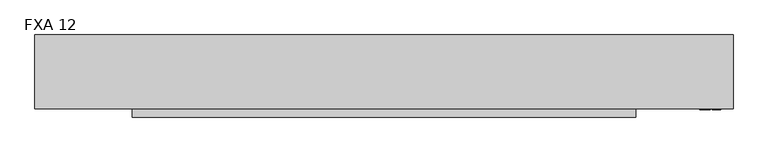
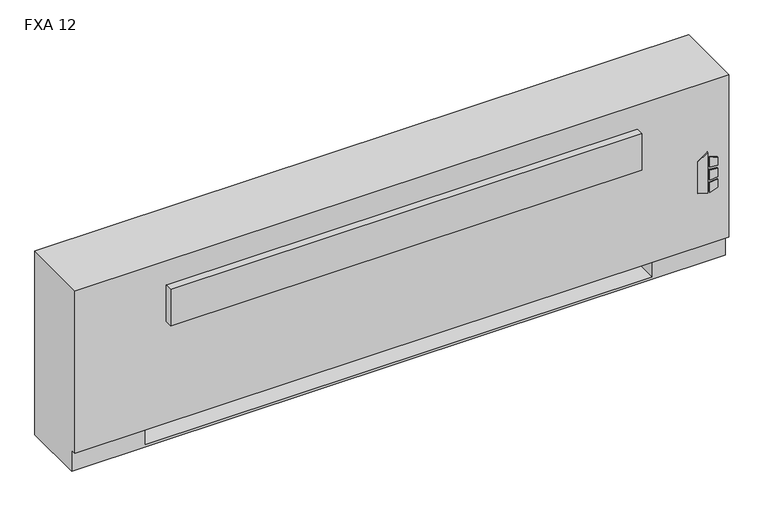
"""IFC4 building model written with IfcOpenShell, lengths in millimetres: proxy geometry, Vertical_Fan_Coil_Unit_-_FXA_-_IEC_-_4-Pipe_FS-FR_LH_2022 : FXA 12."""

from ifc_helpers import new_model, si_unit, point, frame, frame_2d, origin, place, context, project, spatial, polyline, circle_curve, trimmed, segment, composite_curve, outline, extrude, source, transform, mapped, element, save
from ifc_brep_helpers import plane_surface, revolved_surface, advanced_brep


def fxa_12_96722633(model_context):
    return source(origin(), model_context, "Body", "SolidModel", [
        extrude(outline(polyline([(263.9480703, 1128.7868862), (254.0, 1160.9602728), (396.1709244, 1160.9602728), (373.1489183, 1128.7868862), (263.9480703, 1128.7868862)])), frame((0.0, 12.7, 0.0), z_axis=(0.0, 1.0, 0.0), x_axis=(0.0, 0.0, 1.0)), (0.0, 0.0, 1.0), 3.175),
        extrude(outline(polyline([(342.9473557, 1167.7186058), (339.7449632, 1193.8), (368.9738042, 1193.8), (377.0382193, 1167.7186058), (342.9473557, 1167.7186058)])), frame((0.0, 12.7, 0.0), z_axis=(0.0, 1.0, 0.0), x_axis=(0.0, 0.0, 1.0)), (0.0, 0.0, 1.0), 3.175),
        extrude(outline(polyline([(291.0838288, 1193.8), (287.4183279, 1167.7186058), (254.0, 1167.7186058), (262.6342372, 1193.8), (291.0838288, 1193.8)])), frame((0.0, 12.7, 0.0), z_axis=(0.0, 1.0, 0.0), x_axis=(0.0, 0.0, 1.0)), (0.0, 0.0, 1.0), 3.175),
        extrude(outline(polyline([(330.3989903, 1193.8), (332.6808166, 1167.7186058), (296.7432681, 1167.7186058), (299.4845331, 1193.8), (330.3989903, 1193.8)])), frame((0.0, 12.7, 0.0), z_axis=(0.0, 1.0, 0.0), x_axis=(0.0, 0.0, 1.0)), (0.0, 0.0, 1.0), 3.175),
        extrude(outline(polyline([(1111.25, 223.266), (1111.25, 81.534), (990.6, 81.534), (990.6, 223.266), (1111.25, 223.266)])), frame((0.0, 0.0, 327.025), z_axis=(0.0, 0.0, 1.0), x_axis=(1.0, 0.0, 0.0)), (0.0, 0.0, 1.0), 260.35),
        extrude(outline(composite_curve([segment(trimmed(circle_curve(frame_2d((-749.3, 130.175)), 9.525), [point((-758.825, 130.175))], [point((-739.775, 130.175))], False, "CARTESIAN"), True, "CONTINUOUS"), segment(trimmed(circle_curve(frame_2d((-749.3, 130.175)), 9.525), [point((-739.775, 130.175))], [point((-758.825, 130.175))], False, "CARTESIAN"), True, "CONTINUOUS")], self_intersect=False)), frame((0.0, 0.0, 101.6), z_axis=(0.0, 0.0, 1.0), x_axis=(1.0, 0.0, 0.0)), (0.0, 0.0, 1.0), 25.4),
        extrude(outline(polyline([(-850.9, 63.5), (-850.9, 196.85), (-685.8, 196.85), (-685.8, 63.5), (-850.9, 63.5)])), frame((0.0, 0.0, 127.0), z_axis=(0.0, 0.0, 1.0), x_axis=(1.0, 0.0, 0.0)), (0.0, 0.0, 1.0), 50.8),
        extrude(outline(polyline([(930.275, -9.525), (-625.475, -9.525), (-625.475, 15.875), (930.275, 15.875), (930.275, -9.525)])), frame((0.0, 0.0, 428.625), z_axis=(0.0, 0.0, 1.0), x_axis=(1.0, 0.0, 0.0)), (0.0, 0.0, 1.0), 127.0),
        extrude(outline(composite_curve([segment(trimmed(circle_curve(frame_2d((109.0168, 457.2)), 7.9375), [point((109.0168, 465.1375))], [point((109.0168, 449.2625))], False, "CARTESIAN"), True, "CONTINUOUS"), segment(trimmed(circle_curve(frame_2d((109.0168, 457.2)), 7.9375), [point((109.0168, 449.2625))], [point((109.0168, 465.1375))], False, "CARTESIAN"), True, "CONTINUOUS")], self_intersect=False)), frame((-736.6, 0.0, 0.0), z_axis=(1.0, 0.0, 0.0), x_axis=(0.0, 1.0, 0.0)), (0.0, 0.0, 1.0), 50.8),
        extrude(outline(composite_curve([segment(trimmed(circle_curve(frame_2d((172.085, 460.0194)), 7.9375), [point((172.085, 467.9569))], [point((172.085, 452.0819))], False, "CARTESIAN"), True, "CONTINUOUS"), segment(trimmed(circle_curve(frame_2d((172.085, 460.0194)), 7.9375), [point((172.085, 452.0819))], [point((172.085, 467.9569))], False, "CARTESIAN"), True, "CONTINUOUS")], self_intersect=False)), frame((-736.6, 0.0, 0.0), z_axis=(1.0, 0.0, 0.0), x_axis=(0.0, 1.0, 0.0)), (0.0, 0.0, 1.0), 50.8),
        extrude(outline(composite_curve([segment(trimmed(circle_curve(frame_2d((130.175, 554.99)), 7.9502), [point((130.175, 562.9402))], [point((130.175, 547.0398))], False, "CARTESIAN"), True, "CONTINUOUS"), segment(trimmed(circle_curve(frame_2d((130.175, 554.99)), 7.9502), [point((130.175, 547.0398))], [point((130.175, 562.9402))], False, "CARTESIAN"), True, "CONTINUOUS")], self_intersect=False)), frame((-736.6, 0.0, 0.0), z_axis=(1.0, 0.0, 0.0), x_axis=(0.0, 1.0, 0.0)), (0.0, 0.0, 1.0), 50.8),
        extrude(outline(composite_curve([segment(trimmed(circle_curve(frame_2d((53.975, 416.56)), 7.9502), [point((53.975, 424.5102))], [point((53.975, 408.6098))], False, "CARTESIAN"), True, "CONTINUOUS"), segment(trimmed(circle_curve(frame_2d((53.975, 416.56)), 7.9502), [point((53.975, 408.6098))], [point((53.975, 424.5102))], False, "CARTESIAN"), True, "CONTINUOUS")], self_intersect=False)), frame((-736.6, 0.0, 0.0), z_axis=(1.0, 0.0, 0.0), x_axis=(0.0, 1.0, 0.0)), (0.0, 0.0, 1.0), 50.8),
        advanced_brep(
        [(1231.9, 244.475, 641.35), (-927.1, 244.475, 641.35), (-927.1, 15.875, 641.35), (1231.9, 15.875, 641.35), (-927.1, 244.475, 0.0), (1231.9, 244.475, 0.0), (1231.9, 34.925, 0.0), (-927.1, 34.925, 0.0), (990.6, 244.475, 73.025), (1219.2, 244.475, 73.025), (1219.2, 244.475, 628.65), (990.6, 244.475, 628.65), (990.6, 244.475, 414.8650565), (1019.175, 244.475, 414.8650565), (1019.175, 244.475, 385.2349435), (990.6, 244.475, 385.2349435), (990.6, 244.475, 287.3375), (1019.175, 244.475, 287.3375), (1019.175, 244.475, 258.7625), (990.6, 244.475, 258.7625), (990.6, 244.475, 141.2875), (1019.175, 244.475, 141.2875), (1019.175, 244.475, 112.7125), (990.6, 244.475, 112.7125), (-685.8, 244.475, 628.65), (-914.4, 244.475, 628.65), (-914.4, 244.475, 73.025), (-685.8, 244.475, 73.025), (-685.8, 244.475, 112.7125), (-714.375, 244.475, 112.7125), (-714.375, 244.475, 141.2875), (-685.8, 244.475, 141.2875), (-685.8, 244.475, 258.7625), (-714.375, 244.475, 258.7625), (-714.375, 244.475, 287.3375), (-685.8, 244.475, 287.3375), (-685.8, 244.475, 385.2349435), (-714.375, 244.475, 385.2349435), (-714.375, 244.475, 414.8650565), (-685.8, 244.475, 414.8650565), (1008.8626, 244.475, 127.0), (997.7374, 244.475, 127.0), (1008.8626, 244.475, 400.05), (997.7374, 244.475, 400.05), (1008.8626, 244.475, 273.05), (997.7374, 244.475, 273.05), (-692.9374, 244.475, 127.0), (-704.0626, 244.475, 127.0), (-692.9374, 244.475, 273.05), (-704.0626, 244.475, 273.05), (-692.9374, 244.475, 400.05), (-704.0626, 244.475, 400.05), (-927.1, 34.925, 73.025), (-927.1, 15.875, 73.025), (1231.9, 15.875, 73.025), (1231.9, 34.925, 73.025), (-685.8, 34.925, 73.025), (-685.8, 219.075, 73.025), (990.6, 219.075, 73.025), (990.6, 34.925, 73.025), (990.6, 34.925, 6.35), (-685.8, 34.925, 6.35), (990.6, 41.275, 628.65), (1219.2, 41.275, 628.65), (1219.2, 41.275, 73.025), (990.6, 41.275, 73.025), (-685.8, 41.275, 628.65), (-685.8, 41.275, 73.025), (-914.4, 41.275, 73.025), (-914.4, 41.275, 628.65), (990.6, 219.075, 73.025), (990.6, 238.125, 112.7125), (990.6, 238.125, 141.2875), (990.6, 238.125, 258.7625), (990.6, 238.125, 287.3375), (990.6, 238.125, 385.2349435), (990.6, 238.125, 414.8650565), (-685.8, 219.075, 73.025), (-685.8, 238.125, 414.8650565), (-685.8, 238.125, 385.2349435), (-685.8, 238.125, 287.3375), (-685.8, 238.125, 258.7625), (-685.8, 238.125, 141.2875), (-685.8, 238.125, 112.7125), (-685.8, 219.075, 6.35), (990.6, 219.075, 6.35), (1019.175, 238.125, 112.7125), (1019.175, 238.125, 141.2875), (997.7374, 238.125, 127.0), (1008.8626, 238.125, 127.0), (1019.175, 238.125, 258.7625), (1019.175, 238.125, 287.3375), (997.7374, 238.125, 273.05), (1008.8626, 238.125, 273.05), (1019.175, 238.125, 385.2349435), (1019.175, 238.125, 414.8650565), (997.7374, 238.125, 400.05), (1008.8626, 238.125, 400.05), (-714.375, 238.125, 141.2875), (-714.375, 238.125, 112.7125), (-704.0626, 238.125, 127.0), (-692.9374, 238.125, 127.0), (-714.375, 238.125, 287.3375), (-714.375, 238.125, 258.7625), (-704.0626, 238.125, 273.05), (-692.9374, 238.125, 273.05), (-714.375, 238.125, 414.8650565), (-714.375, 238.125, 385.2349435), (-704.0626, 238.125, 400.05), (-692.9374, 238.125, 400.05)],
        [
            (0, 1),
            (1, 2),
            (2, 3),
            (3, 0),
            (4, 5),
            (5, 6),
            (6, 7),
            (7, 4),
            (0, 5),
            (4, 1),
            (8, 9),
            (9, 10),
            (10, 11),
            (11, 12),
            (12, 13),
            (13, 14),
            (14, 15),
            (15, 16),
            (16, 17),
            (17, 18),
            (18, 19),
            (19, 20),
            (20, 21),
            (21, 22),
            (22, 23),
            (23, 8),
            (24, 25),
            (25, 26),
            (26, 27),
            (27, 28),
            (28, 29),
            (29, 30),
            (30, 31),
            (31, 32),
            (32, 33),
            (33, 34),
            (34, 35),
            (35, 36),
            (36, 37),
            (37, 38),
            (38, 39),
            (39, 24),
            (40, 41, circle_curve(frame((1003.3, 244.475, 127.0), z_axis=(0.0, -1.0, 0.0), x_axis=(-1.0, 0.0, 0.0)), 5.5626)),
            (41, 40, circle_curve(frame((1003.3, 244.475, 127.0), z_axis=(0.0, -1.0, 0.0), x_axis=(-1.0, 0.0, 0.0)), 5.5626)),
            (42, 43, circle_curve(frame((1003.3, 244.475, 400.05), z_axis=(0.0, -1.0, 0.0), x_axis=(-1.0, 0.0, 0.0)), 5.5626)),
            (43, 42, circle_curve(frame((1003.3, 244.475, 400.05), z_axis=(0.0, -1.0, 0.0), x_axis=(-1.0, 0.0, 0.0)), 5.5626)),
            (44, 45, circle_curve(frame((1003.3, 244.475, 273.05), z_axis=(0.0, -1.0, 0.0), x_axis=(-1.0, 0.0, 0.0)), 5.5626)),
            (45, 44, circle_curve(frame((1003.3, 244.475, 273.05), z_axis=(0.0, -1.0, 0.0), x_axis=(-1.0, 0.0, 0.0)), 5.5626)),
            (46, 47, circle_curve(frame((-698.5, 244.475, 127.0), z_axis=(0.0, -1.0, 0.0), x_axis=(-1.0, 0.0, 0.0)), 5.5626)),
            (47, 46, circle_curve(frame((-698.5, 244.475, 127.0), z_axis=(0.0, -1.0, 0.0), x_axis=(-1.0, 0.0, 0.0)), 5.5626)),
            (48, 49, circle_curve(frame((-698.5, 244.475, 273.05), z_axis=(0.0, -1.0, 0.0), x_axis=(-1.0, 0.0, 0.0)), 5.5626)),
            (49, 48, circle_curve(frame((-698.5, 244.475, 273.05), z_axis=(0.0, -1.0, 0.0), x_axis=(-1.0, 0.0, 0.0)), 5.5626)),
            (50, 51, circle_curve(frame((-698.5, 244.475, 400.05), z_axis=(0.0, -1.0, 0.0), x_axis=(-1.0, 0.0, 0.0)), 5.5626)),
            (51, 50, circle_curve(frame((-698.5, 244.475, 400.05), z_axis=(0.0, -1.0, 0.0), x_axis=(-1.0, 0.0, 0.0)), 5.5626)),
            (7, 52),
            (52, 53),
            (53, 2),
            (53, 54),
            (54, 3),
            (54, 55),
            (55, 6),
            (52, 56),
            (56, 57),
            (57, 58),
            (58, 59),
            (59, 55),
            (59, 60),
            (60, 61),
            (61, 56),
            (62, 63),
            (63, 64),
            (64, 65),
            (65, 62),
            (66, 67),
            (67, 68),
            (68, 69),
            (69, 66),
            (65, 70),
            (70, 8),
            (23, 71),
            (71, 72),
            (72, 20),
            (19, 73),
            (73, 74),
            (74, 16),
            (15, 75),
            (75, 76),
            (76, 12),
            (11, 62),
            (64, 9),
            (63, 10),
            (69, 25),
            (24, 66),
            (68, 26),
            (67, 77),
            (77, 27),
            (39, 78),
            (78, 79),
            (79, 36),
            (35, 80),
            (80, 81),
            (81, 32),
            (31, 82),
            (82, 83),
            (83, 28),
            (57, 84),
            (84, 85),
            (85, 58),
            (85, 60),
            (84, 61),
            (71, 86),
            (86, 87),
            (87, 72),
            (88, 89, circle_curve(frame((1003.3, 238.125, 127.0), z_axis=(0.0, 1.0, 0.0), x_axis=(-1.0, 0.0, 0.0)), 5.5626)),
            (89, 88, circle_curve(frame((1003.3, 238.125, 127.0), z_axis=(0.0, 1.0, 0.0), x_axis=(-1.0, 0.0, 0.0)), 5.5626)),
            (73, 90),
            (90, 91),
            (91, 74),
            (92, 93, circle_curve(frame((1003.3, 238.125, 273.05), z_axis=(0.0, 1.0, 0.0), x_axis=(-1.0, 0.0, 0.0)), 5.5626)),
            (93, 92, circle_curve(frame((1003.3, 238.125, 273.05), z_axis=(0.0, 1.0, 0.0), x_axis=(-1.0, 0.0, 0.0)), 5.5626)),
            (75, 94),
            (94, 95),
            (95, 76),
            (96, 97, circle_curve(frame((1003.3, 238.125, 400.05), z_axis=(0.0, 1.0, 0.0), x_axis=(-1.0, 0.0, 0.0)), 5.5626)),
            (97, 96, circle_curve(frame((1003.3, 238.125, 400.05), z_axis=(0.0, 1.0, 0.0), x_axis=(-1.0, 0.0, 0.0)), 5.5626)),
            (98, 99),
            (99, 83),
            (82, 98),
            (100, 101, circle_curve(frame((-698.5, 238.125, 127.0), z_axis=(0.0, 1.0, 0.0), x_axis=(-1.0, 0.0, 0.0)), 5.5626)),
            (101, 100, circle_curve(frame((-698.5, 238.125, 127.0), z_axis=(0.0, 1.0, 0.0), x_axis=(-1.0, 0.0, 0.0)), 5.5626)),
            (102, 103),
            (103, 81),
            (80, 102),
            (104, 105, circle_curve(frame((-698.5, 238.125, 273.05), z_axis=(0.0, 1.0, 0.0), x_axis=(-1.0, 0.0, 0.0)), 5.5626)),
            (105, 104, circle_curve(frame((-698.5, 238.125, 273.05), z_axis=(0.0, 1.0, 0.0), x_axis=(-1.0, 0.0, 0.0)), 5.5626)),
            (106, 107),
            (107, 79),
            (78, 106),
            (108, 109, circle_curve(frame((-698.5, 238.125, 400.05), z_axis=(0.0, 1.0, 0.0), x_axis=(-1.0, 0.0, 0.0)), 5.5626)),
            (109, 108, circle_curve(frame((-698.5, 238.125, 400.05), z_axis=(0.0, 1.0, 0.0), x_axis=(-1.0, 0.0, 0.0)), 5.5626)),
            (87, 21),
            (86, 22),
            (91, 17),
            (90, 18),
            (95, 13),
            (94, 14),
            (30, 98),
            (99, 29),
            (34, 102),
            (103, 33),
            (38, 106),
            (107, 37),
            (88, 41),
            (40, 89),
            (96, 43),
            (42, 97),
            (92, 45),
            (44, 93),
            (100, 47),
            (46, 101),
            (104, 49),
            (48, 105),
            (108, 51),
            (50, 109),
        ],
        [
            plane_surface(frame((-927.1, 244.475, 641.35), z_axis=(0.0, 0.0, 1.0), x_axis=(-1.0, 0.0, 0.0))),
            plane_surface(frame((-927.1, 244.475, 0.0), z_axis=(0.0, 0.0, -1.0), x_axis=(1.0, 0.0, 0.0))),
            plane_surface(frame((1231.9, 244.475, 641.35), z_axis=(0.0, 1.0, 0.0), x_axis=(0.0, 0.0, -1.0))),
            plane_surface(frame((-927.1, 244.475, 641.35), z_axis=(-1.0, 0.0, 0.0), x_axis=(0.0, 0.0, -1.0))),
            plane_surface(frame((-927.1, 15.875, 641.35), z_axis=(0.0, -1.0, 0.0), x_axis=(0.0, 0.0, -1.0))),
            plane_surface(frame((1231.9, 15.875, 641.35), z_axis=(1.0, 0.0, 0.0), x_axis=(0.0, 0.0, -1.0))),
            plane_surface(frame((-927.1, 15.875, 73.025), z_axis=(0.0, 0.0, -1.0), x_axis=(1.0, 0.0, 0.0))),
            plane_surface(frame((-927.1, 34.925, 73.025), z_axis=(0.0, -1.0, 0.0), x_axis=(1.0, 0.0, 0.0))),
            plane_surface(frame((990.6, 41.275, 628.65), z_axis=(0.0, 1.0, 0.0), x_axis=(0.0, 0.0, -1.0))),
            plane_surface(frame((990.6, 41.275, 628.65), z_axis=(1.0, 0.0, 0.0), x_axis=(0.0, 1.0, 0.0))),
            plane_surface(frame((990.6, 41.275, 73.025), z_axis=(0.0, 0.0, 1.0), x_axis=(0.0, 1.0, 0.0))),
            plane_surface(frame((1219.2, 41.275, 73.025), z_axis=(-1.0, 0.0, 0.0), x_axis=(0.0, 1.0, 0.0))),
            plane_surface(frame((1219.2, 41.275, 628.65), z_axis=(0.0, 0.0, -1.0), x_axis=(0.0, 1.0, 0.0))),
            plane_surface(frame((-685.8, 41.275, 628.65), z_axis=(0.0, 0.0, -1.0), x_axis=(0.0, 1.0, 0.0))),
            plane_surface(frame((-914.4, 41.275, 628.65), z_axis=(1.0, 0.0, 0.0), x_axis=(0.0, 1.0, 0.0))),
            plane_surface(frame((-914.4, 41.275, 73.025), z_axis=(0.0, 0.0, 1.0), x_axis=(0.0, 1.0, 0.0))),
            plane_surface(frame((-685.8, 41.275, 73.025), z_axis=(-1.0, 0.0, 0.0), x_axis=(0.0, 1.0, 0.0))),
            plane_surface(frame((990.6, 219.075, 73.025), z_axis=(0.0, -1.0, 0.0), x_axis=(0.0, 0.0, -1.0))),
            plane_surface(frame((990.6, 219.075, 73.025), z_axis=(-1.0, 0.0, 0.0), x_axis=(0.0, -1.0, 0.0))),
            plane_surface(frame((990.6, 219.075, 6.35), z_axis=(0.0, 0.0, 1.0), x_axis=(0.0, -1.0, 0.0))),
            plane_surface(frame((-685.8, 219.075, 6.35), z_axis=(1.0, 0.0, 0.0), x_axis=(0.0, -1.0, 0.0))),
            plane_surface(frame((1019.175, 238.125, 141.2875), z_axis=(0.0, -1.0, 0.0), x_axis=(-1.0, 0.0, 0.0))),
            plane_surface(frame((990.6, 244.475, 141.2875), z_axis=(0.0, 0.0, 1.0), x_axis=(0.0, -1.0, 0.0))),
            plane_surface(frame((1019.175, 244.475, 141.2875), z_axis=(1.0, 0.0, 0.0), x_axis=(0.0, -1.0, 0.0))),
            plane_surface(frame((1019.175, 244.475, 112.7125), z_axis=(0.0, 0.0, -1.0), x_axis=(0.0, -1.0, 0.0))),
            plane_surface(frame((990.6, 244.475, 287.3375), z_axis=(0.0, 0.0, 1.0), x_axis=(0.0, -1.0, 0.0))),
            plane_surface(frame((1019.175, 244.475, 287.3375), z_axis=(1.0, 0.0, 0.0), x_axis=(0.0, -1.0, 0.0))),
            plane_surface(frame((1019.175, 244.475, 258.7625), z_axis=(0.0, 0.0, -1.0), x_axis=(0.0, -1.0, 0.0))),
            plane_surface(frame((990.6, 244.475, 414.8650565), z_axis=(0.0, 0.0, 1.0), x_axis=(0.0, -1.0, 0.0))),
            plane_surface(frame((1019.175, 244.475, 414.8650565), z_axis=(1.0, 0.0, 0.0), x_axis=(0.0, -1.0, 0.0))),
            plane_surface(frame((1019.175, 244.475, 385.2349435), z_axis=(0.0, 0.0, -1.0), x_axis=(0.0, -1.0, 0.0))),
            plane_surface(frame((-714.375, 244.475, 141.2875), z_axis=(0.0, 0.0, 1.0), x_axis=(0.0, -1.0, 0.0))),
            plane_surface(frame((-685.8, 244.475, 112.7125), z_axis=(0.0, 0.0, -1.0), x_axis=(0.0, -1.0, 0.0))),
            plane_surface(frame((-714.375, 244.475, 112.7125), z_axis=(-1.0, 0.0, 0.0), x_axis=(0.0, -1.0, 0.0))),
            plane_surface(frame((-714.375, 244.475, 287.3375), z_axis=(0.0, 0.0, 1.0), x_axis=(0.0, -1.0, 0.0))),
            plane_surface(frame((-685.8, 244.475, 258.7625), z_axis=(0.0, 0.0, -1.0), x_axis=(0.0, -1.0, 0.0))),
            plane_surface(frame((-714.375, 244.475, 258.7625), z_axis=(-1.0, 0.0, 0.0), x_axis=(0.0, -1.0, 0.0))),
            plane_surface(frame((-714.375, 244.475, 414.8650565), z_axis=(0.0, 0.0, 1.0), x_axis=(0.0, -1.0, 0.0))),
            plane_surface(frame((-685.8, 244.475, 385.2349435), z_axis=(0.0, 0.0, -1.0), x_axis=(0.0, -1.0, 0.0))),
            plane_surface(frame((-714.375, 244.475, 385.2349435), z_axis=(-1.0, 0.0, 0.0), x_axis=(0.0, -1.0, 0.0))),
            revolved_surface(polyline([(997.7374, 238.125, 127.0), (997.7374, 244.475, 127.0)]), (1003.3, 244.475, 127.0), (0.0, -1.0, 0.0)),
            revolved_surface(polyline([(997.7374, 238.125, 400.05), (997.7374, 244.475, 400.05)]), (1003.3, 244.475, 400.05), (0.0, -1.0, 0.0)),
            revolved_surface(polyline([(997.7374, 238.125, 273.05), (997.7374, 244.475, 273.05)]), (1003.3, 244.475, 273.05), (0.0, -1.0, 0.0)),
            revolved_surface(polyline([(-704.0626, 238.125, 127.0), (-704.0626, 244.475, 127.0)]), (-698.5, 244.475, 127.0), (0.0, -1.0, 0.0)),
            revolved_surface(polyline([(-704.0626, 238.125, 273.05), (-704.0626, 244.475, 273.05)]), (-698.5, 244.475, 273.05), (0.0, -1.0, 0.0)),
            revolved_surface(polyline([(-704.0626, 238.125, 400.05), (-704.0626, 244.475, 400.05)]), (-698.5, 244.475, 400.05), (0.0, -1.0, 0.0)),
        ],
        [
            (0, [[1, 2, 3, 4]]),
            (1, [[5, 6, 7, 8]]),
            (2, [[-1, 9, -5, 10], [11, 12, 13, 14, 15, 16, 17, 18, 19, 20, 21, 22, 23, 24, 25, 26], [27, 28, 29, 30, 31, 32, 33, 34, 35, 36, 37, 38, 39, 40, 41, 42], [43, 44], [45, 46], [47, 48], [49, 50], [51, 52], [53, 54]]),
            (3, [[-2, -10, -8, 55, 56, 57]]),
            (4, [[-3, -57, 58, 59]]),
            (5, [[-4, -59, 60, 61, -6, -9]]),
            (6, [[-56, 62, 63, 64, 65, 66, -60, -58]]),
            (7, [[-7, -61, -66, 67, 68, 69, -62, -55]]),
            (8, [[70, 71, 72, 73]]),
            (8, [[74, 75, 76, 77]]),
            (9, [[-73, 78, 79, -26, 80, 81, 82, -22, 83, 84, 85, -18, 86, 87, 88, -14, 89]]),
            (10, [[-72, 90, -11, -79, -78]]),
            (11, [[-71, 91, -12, -90]]),
            (12, [[-70, -89, -13, -91]]),
            (13, [[-77, 92, -27, 93]]),
            (14, [[-76, 94, -28, -92]]),
            (15, [[-75, 95, 96, -29, -94]]),
            (16, [[-74, -93, -42, 97, 98, 99, -38, 100, 101, 102, -34, 103, 104, 105, -30, -96, -95]]),
            (17, [[-64, 106, 107, 108]]),
            (18, [[-108, 109, -67, -65]]),
            (19, [[-107, 110, -68, -109]]),
            (20, [[-106, -63, -69, -110]]),
            (21, [[111, 112, 113, -81], [114, 115]]),
            (21, [[116, 117, 118, -84], [119, 120]]),
            (21, [[121, 122, 123, -87], [124, 125]]),
            (21, [[126, 127, -104, 128], [129, 130]]),
            (21, [[131, 132, -101, 133], [134, 135]]),
            (21, [[136, 137, -98, 138], [139, 140]]),
            (22, [[-113, 141, -23, -82]]),
            (23, [[-112, 142, -24, -141]]),
            (24, [[-111, -80, -25, -142]]),
            (25, [[-118, 143, -19, -85]]),
            (26, [[-117, 144, -20, -143]]),
            (27, [[-116, -83, -21, -144]]),
            (28, [[-123, 145, -15, -88]]),
            (29, [[-122, 146, -16, -145]]),
            (30, [[-121, -86, -17, -146]]),
            (31, [[-128, -103, -33, 147]]),
            (32, [[-127, 148, -31, -105]]),
            (33, [[-126, -147, -32, -148]]),
            (34, [[-133, -100, -37, 149]]),
            (35, [[-132, 150, -35, -102]]),
            (36, [[-131, -149, -36, -150]]),
            (37, [[-138, -97, -41, 151]]),
            (38, [[-137, 152, -39, -99]]),
            (39, [[-136, -151, -40, -152]]),
            (40, [[153, -43, 154, -114]]),
            (40, [[-153, -115, -154, -44]]),
            (41, [[155, -45, 156, -124]]),
            (41, [[-155, -125, -156, -46]]),
            (42, [[157, -47, 158, -119]]),
            (42, [[-157, -120, -158, -48]]),
            (43, [[159, -49, 160, -129]]),
            (43, [[-159, -130, -160, -50]]),
            (44, [[161, -51, 162, -134]]),
            (44, [[-161, -135, -162, -52]]),
            (45, [[163, -53, 164, -139]]),
            (45, [[-163, -140, -164, -54]]),
        ],
    ),
    ])


if __name__ == "__main__":
    model = new_model("IFC4")
    model_context = context("Model", 3, world=origin())
    ifc_project = project(units=[si_unit("LENGTHUNIT", "METRE", prefix="MILLI")], contexts=[model_context])
    site = spatial("IfcSite", under=ifc_project)
    building = spatial("IfcBuilding", under=site)
    placement = place(None, origin())
    fxa_12_shape = fxa_12_96722633(model_context)
    element("IfcBuildingElementProxy", 1, Name="Vertical_Fan_Coil_Unit_-_FXA_-_IEC_-_4-Pipe_FS-FR_LH_2022 : FXA 12", ObjectType="Vertical_Fan_Coil_Unit_-_FXA_-_IEC_-_4-Pipe_FS-FR_LH_2022 : FXA 12", at=placement, inside=building, context=model_context, shape_type="MappedRepresentation", body=[
        mapped(fxa_12_shape, transform((0.0, 0.0, 0.0), x_axis=(1.0, 0.0, 0.0), y_axis=(0.0, 1.0, 0.0), z_axis=(0.0, 0.0, 1.0))),
    ])
    save(model, "model.ifc")
